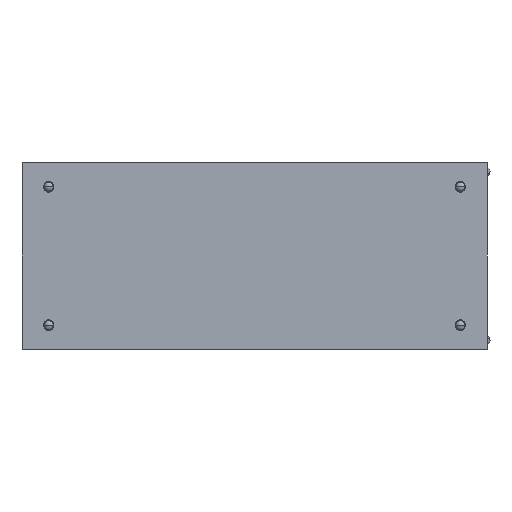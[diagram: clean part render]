
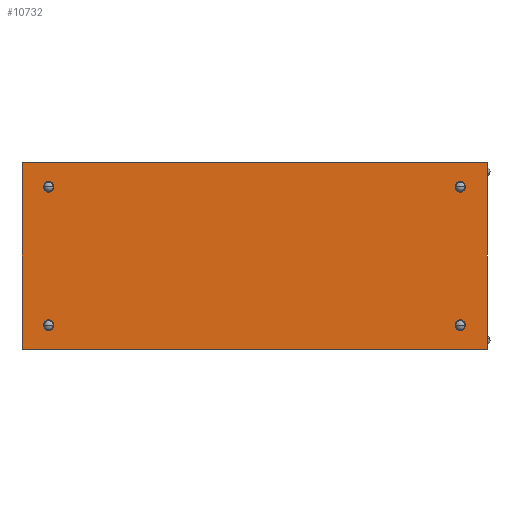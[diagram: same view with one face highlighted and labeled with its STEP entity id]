
A CAD part, left-side view. The second image highlights one B-rep face of the part: STEP entity #10732.
In plain terms, the highlighted planar face has unit normal (-1, 0, 0).
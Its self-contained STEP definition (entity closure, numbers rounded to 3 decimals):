
#950 = LINE ( 'NONE', #1378, #9889 ) ;
#1146 = DIRECTION ( 'NONE',  ( 0., 0., -1. ) ) ;
#1378 = CARTESIAN_POINT ( 'NONE',  ( -70., 350., 70. ) ) ;
#1589 = VERTEX_POINT ( 'NONE', #5886 ) ;
#2090 = EDGE_CURVE ( 'NONE', #1589, #9457, #8806, .T. ) ;
#2141 = VERTEX_POINT ( 'NONE', #11092 ) ;
#2560 = CARTESIAN_POINT ( 'NONE',  ( -70., 0., 70. ) ) ;
#2724 = EDGE_LOOP ( 'NONE', ( #3180, #7276, #9369, #8220 ) ) ;
#2896 = CARTESIAN_POINT ( 'NONE',  ( -70., 350., -70. ) ) ;
#3136 = LINE ( 'NONE', #2896, #7479 ) ;
#3180 = ORIENTED_EDGE ( 'NONE', *, *, #2090, .T. ) ;
#3260 = DIRECTION ( 'NONE',  ( 0., -1., 0. ) ) ;
#3322 = VERTEX_POINT ( 'NONE', #8177 ) ;
#3408 = EDGE_CURVE ( 'NONE', #2141, #9457, #950, .T. ) ;
#3530 = VECTOR ( 'NONE', #3260, 1000. ) ;
#4067 = DIRECTION ( 'NONE',  ( 0., 0., 1. ) ) ;
#4538 = CARTESIAN_POINT ( 'NONE',  ( -70., 350., -70. ) ) ;
#4970 = EDGE_CURVE ( 'NONE', #3322, #1589, #5850, .T. ) ;
#5177 = AXIS2_PLACEMENT_3D ( 'NONE', #4538, #6311, #1146 ) ;
#5446 = PLANE ( 'NONE',  #5177 ) ;
#5576 = DIRECTION ( 'NONE',  ( 0., 0., 1. ) ) ;
#5850 = LINE ( 'NONE', #8448, #3530 ) ;
#5886 = CARTESIAN_POINT ( 'NONE',  ( -70., 0., -70. ) ) ;
#6311 = DIRECTION ( 'NONE',  ( 1., 0., 0. ) ) ;
#6507 = VECTOR ( 'NONE', #4067, 1000. ) ;
#7276 = ORIENTED_EDGE ( 'NONE', *, *, #3408, .F. ) ;
#7479 = VECTOR ( 'NONE', #5576, 1000. ) ;
#8177 = CARTESIAN_POINT ( 'NONE',  ( -70., 350., -70. ) ) ;
#8220 = ORIENTED_EDGE ( 'NONE', *, *, #4970, .T. ) ;
#8286 = DIRECTION ( 'NONE',  ( 0., -1., 0. ) ) ;
#8448 = CARTESIAN_POINT ( 'NONE',  ( -70., 350., -70. ) ) ;
#8806 = LINE ( 'NONE', #10977, #6507 ) ;
#8830 = EDGE_CURVE ( 'NONE', #3322, #2141, #3136, .T. ) ;
#9311 = FACE_OUTER_BOUND ( 'NONE', #2724, .T. ) ;
#9369 = ORIENTED_EDGE ( 'NONE', *, *, #8830, .F. ) ;
#9457 = VERTEX_POINT ( 'NONE', #2560 ) ;
#9889 = VECTOR ( 'NONE', #8286, 1000. ) ;
#10732 = ADVANCED_FACE ( 'NONE', ( #9311 ), #5446, .F. ) ;
#10977 = CARTESIAN_POINT ( 'NONE',  ( -70., 0., -70. ) ) ;
#11092 = CARTESIAN_POINT ( 'NONE',  ( -70., 350., 70. ) ) ;
